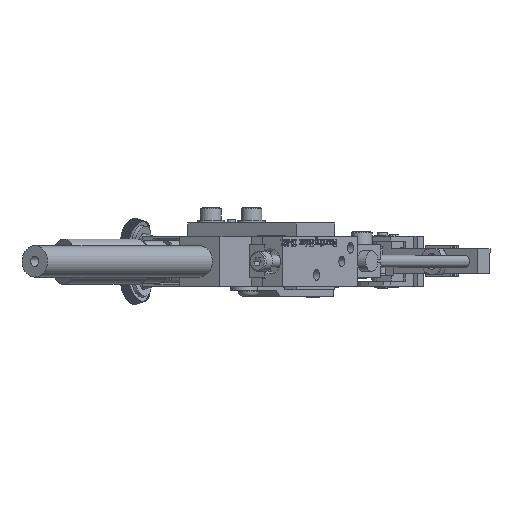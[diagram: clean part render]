
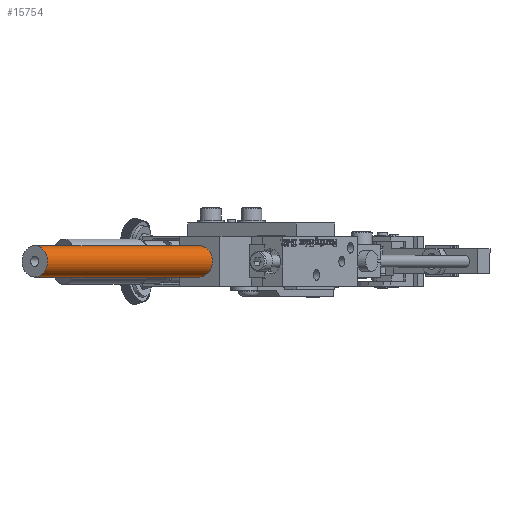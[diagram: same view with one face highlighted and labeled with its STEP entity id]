
A CAD part, front view. The second image highlights one B-rep face of the part: STEP entity #15754.
In plain terms, the highlighted cylindrical face has radius 5.969 mm (diameter 11.938 mm), a full revolution.
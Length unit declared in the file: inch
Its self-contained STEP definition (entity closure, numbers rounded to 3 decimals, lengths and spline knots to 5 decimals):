
#15727=CARTESIAN_POINT('',(-0.72243,-3.18551,0.367));
#15728=DIRECTION('',(-0.581,-0.814,0.));
#15729=DIRECTION('',(0.0,0.0,1.0));
#15730=AXIS2_PLACEMENT_3D('',#15727,#15728,#15729);
#15731=CYLINDRICAL_SURFACE('',#15730,0.235);
#15732=CARTESIAN_POINT('',(-3.19345,-6.64333,0.132));
#15733=VERTEX_POINT('',#15732);
#15734=CARTESIAN_POINT('',(-3.19345,-6.64333,0.367));
#15735=DIRECTION('',(0.581,0.814,0.0));
#15736=DIRECTION('',(0.0,0.0,1.0));
#15737=AXIS2_PLACEMENT_3D('',#15734,#15735,#15736);
#15738=CIRCLE('',#15737,0.235);
#15739=EDGE_CURVE('',#15733,#15733,#15738,.T.);
#15740=ORIENTED_EDGE('',*,*,#15739,.T.);
#15741=EDGE_LOOP('',(#15740));
#15742=FACE_OUTER_BOUND('',#15741,.T.);
#15743=CARTESIAN_POINT('',(-0.72243,-3.18551,0.132));
#15744=VERTEX_POINT('',#15743);
#15745=CARTESIAN_POINT('',(-0.72243,-3.18551,0.367));
#15746=DIRECTION('',(0.581,0.814,0.0));
#15747=DIRECTION('',(0.0,0.0,1.0));
#15748=AXIS2_PLACEMENT_3D('',#15745,#15746,#15747);
#15749=CIRCLE('',#15748,0.235);
#15750=EDGE_CURVE('',#15744,#15744,#15749,.T.);
#15751=ORIENTED_EDGE('',*,*,#15750,.F.);
#15752=EDGE_LOOP('',(#15751));
#15753=FACE_BOUND('',#15752,.T.);
#15754=ADVANCED_FACE('',(#15742,#15753),#15731,.T.);
